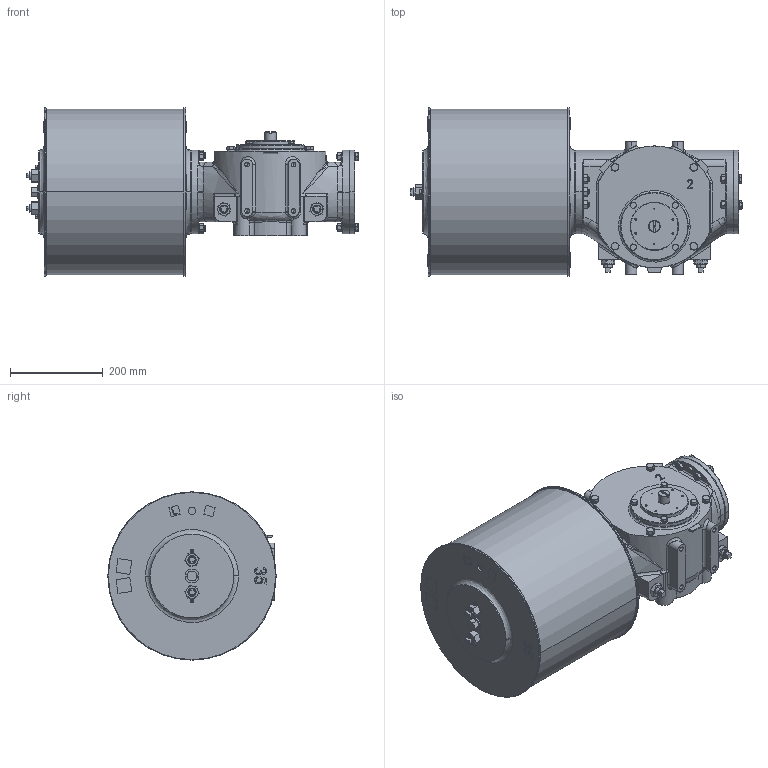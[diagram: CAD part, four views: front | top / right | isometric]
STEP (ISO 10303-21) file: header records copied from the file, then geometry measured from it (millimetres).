
FILE_DESCRIPTION (( 'STEP AP203' ), '1' );
FILE_NAME ('VTS2-350.STEP', '2022-11-11T00:46:06', ( '' ), ( '' ), 'SwSTEP 2.0', 'SolidWorks 2020', '' );
FILE_SCHEMA (( 'CONFIG_CONTROL_DESIGN' ));
Length unit declared in the file: millimetre
Products named in the file (1): VTS2-350
Bounding box: 714.58 x 362 x 362 mm (x, y, z)
Volume: 42483959.7 mm3; surface area: 1098288.7 mm2
Topology: 3 solids, 5 shells, 1516 faces, 3844 edges, 2424 vertices
Faces by surface type: plane 612, cylinder 440, cone 305, bspline 159
Entity records: 60768 total; most frequent: CARTESIAN_POINT 25534, ORIENTED_EDGE 7616, DIRECTION 7058, EDGE_CURVE 3808, AXIS2_PLACEMENT_3D 2770, VERTEX_POINT 2424, EDGE_LOOP 1686, VECTOR 1518
